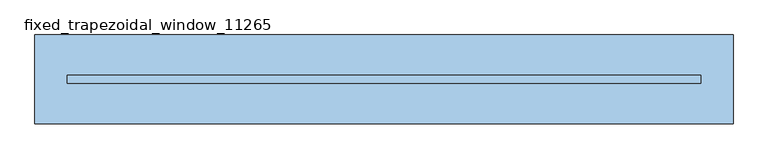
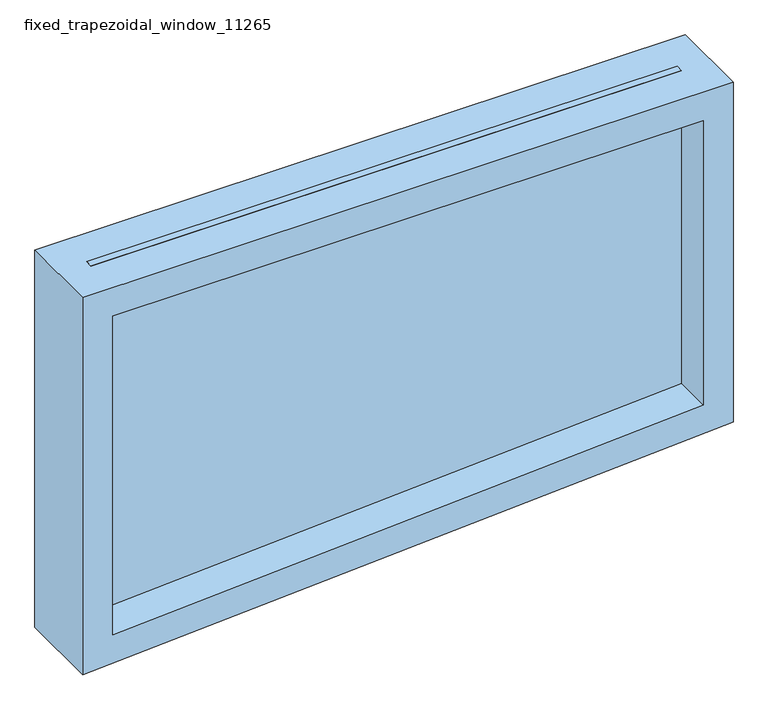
"""IFC4 building model written with IfcOpenShell, lengths in millimetres: window geometry, fixed_trapezoidal_window_11265 : Menuiserie 9.3."""

from ifc_helpers import new_model, si_unit, frame, origin, place, context, project, spatial, polyline, outline, extrude, source, transform, mapped, element, save


def fixed_trapezoidal_window_11265_bffe74e1(model_context):
    return source(origin(), model_context, "Body", "SweptSolid", [
        extrude(outline(polyline([(1894.2, -537.3), (1273.2019904, -537.3), (1334.2667504, 461.1), (1894.2, 461.1), (1894.2, -537.3)])), frame((0.0, -6.35, 0.0), z_axis=(0.0, 1.0, 0.0), x_axis=(0.0, 0.0, 1.0)), (0.0, 0.0, 1.0), 12.7),
        extrude(outline(polyline([(1894.2, 511.9), (1894.2, -588.1), (1219.2, -588.1), (1286.4788822, 511.9), (1894.2, 511.9)]), holes=[polyline([(1843.4, 461.1), (1334.2667504, 461.1), (1273.2019904, -537.3), (1843.4, -537.3), (1843.4, 461.1)])]), frame((0.0, -69.85, 0.0), z_axis=(0.0, 1.0, 0.0), x_axis=(0.0, 0.0, 1.0)), (0.0, 0.0, 1.0), 139.7),
    ])


if __name__ == "__main__":
    model = new_model("IFC4")
    model_context = context("Model", 3, world=origin())
    ifc_project = project(units=[si_unit("LENGTHUNIT", "METRE", prefix="MILLI")], contexts=[model_context])
    site = spatial("IfcSite", under=ifc_project)
    building = spatial("IfcBuilding", under=site)
    placement = place(None, origin())
    fixed_trapezoidal_window_11265_shape = fixed_trapezoidal_window_11265_bffe74e1(model_context)
    element("IfcWindow", 1, ObjectType="fixed_trapezoidal_window_11265 : Menuiserie 9.3", at=placement, inside=building, context=model_context, shape_type="MappedRepresentation", body=[
        mapped(fixed_trapezoidal_window_11265_shape, transform((0.0, 0.0, 0.0), x_axis=(1.0, 0.0, 0.0), y_axis=(0.0, 1.0, 0.0), z_axis=(0.0, 0.0, 1.0))),
    ])
    save(model, "model.ifc")
